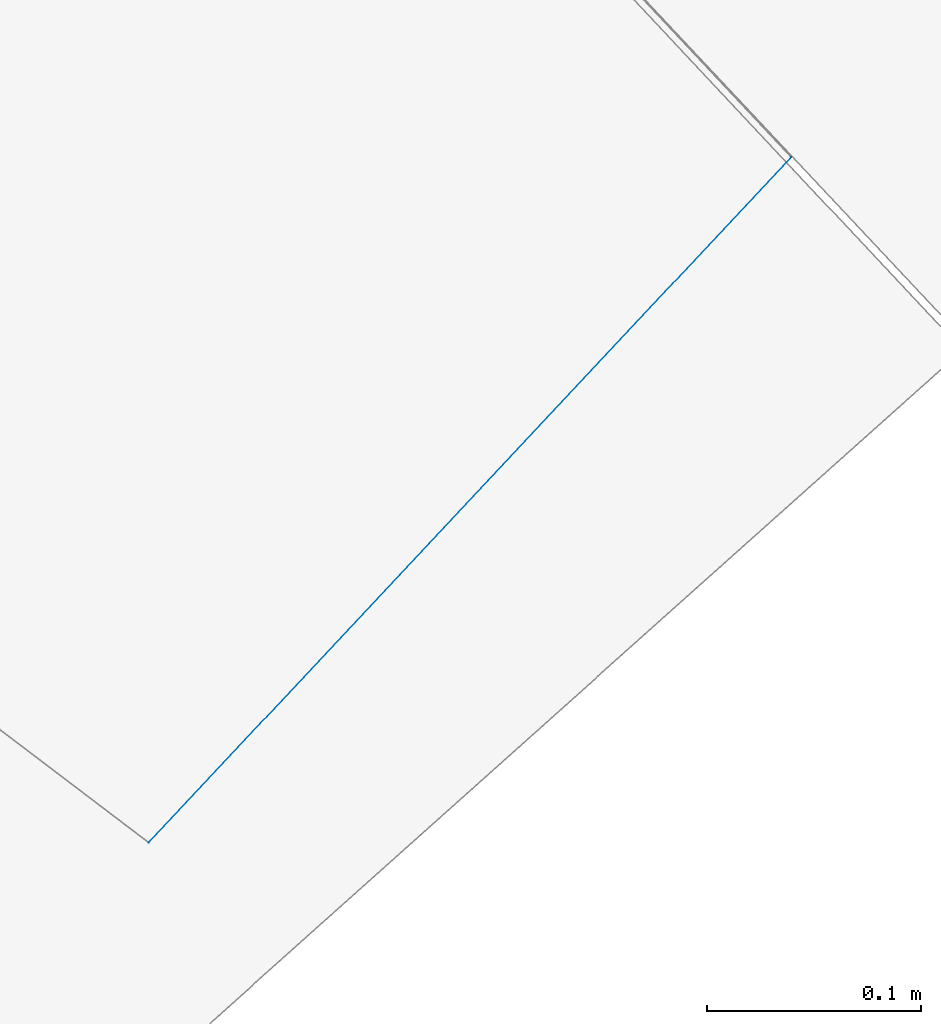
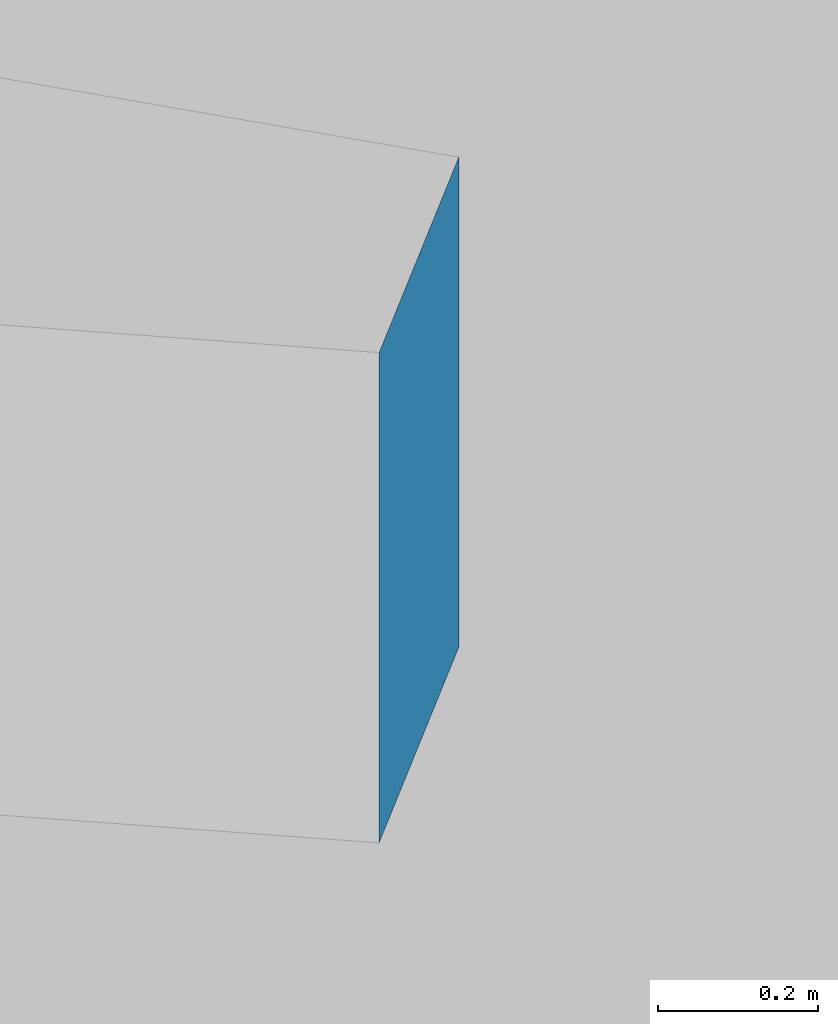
# Not in any storey, part 109 of 136: 2 walls.
"""IFC2X3 building model written with IfcOpenShell, lengths in metres."""

from ifc_helpers import new_model, entity, si_unit, converted_unit, frame, origin, place, context, subcontext, project, spatial, face_set, surface_model, element, save


model = new_model("IFC2X3")

# Units and contexts
model_context = context("Model", 3, precision=1e-05, world=origin())
body_context = subcontext(model_context, "Body", "Model", "MODEL_VIEW")
ifc_project = project(units=[converted_unit("PLANEANGLEUNIT", "DEGREE", entity("IfcRatioMeasure", 0.0174532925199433), si_unit("PLANEANGLEUNIT", "RADIAN"), dimensions=[0, 0, 0, 0, 0, 0, 0]), si_unit("AREAUNIT", "SQUARE_METRE"), si_unit("LENGTHUNIT", "METRE")], contexts=[model_context])

# Site, building
site_placement = place(None, origin())
site = spatial("IfcSite", under=ifc_project, at=site_placement, Name="_site", CompositionType="ELEMENT")
building_placement = place(site_placement, origin())
building = spatial("IfcBuilding", under=site, at=building_placement, Name="_building", CompositionType="ELEMENT")

# Walls
for number, where, name in (
    (1, (0.0, 0.0, 0.0), "Wall"),
    (2, (0.0, 0.0, 0.0), "Wall"),
):
    element("IfcWall", number, at=place(building_placement, frame(where)), inside=building, Name=name, context=body_context, shape_type="SurfaceModel", body=[
        surface_model("IfcFaceBasedSurfaceModel", [(3.87, 123.22, 47.65), (3.57, 122.9, 47.65), (3.57, 122.9, 48.4), (3.87, 123.22, 48.4)], [face_set([[[0, 1, 2, 3]]])]),
    ])

save(model, "model.ifc")
